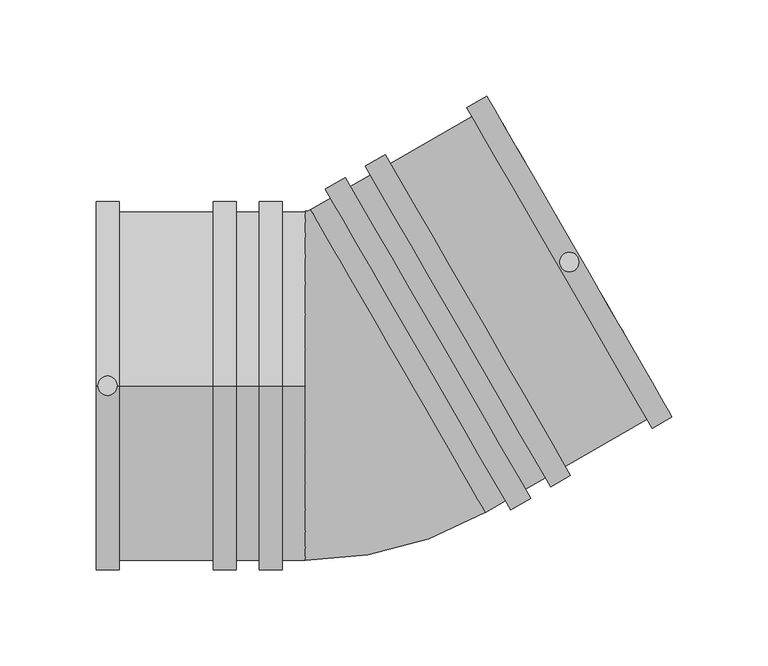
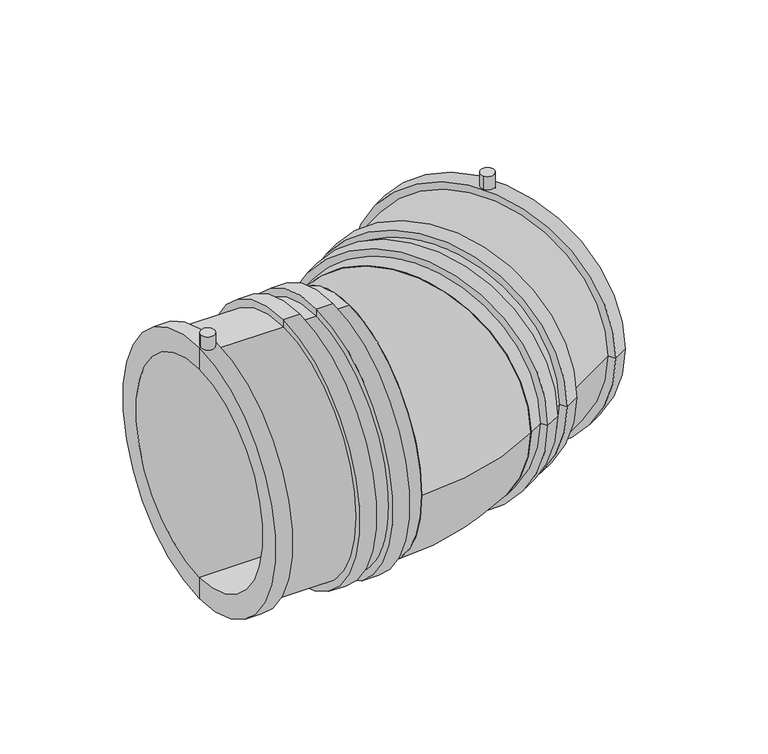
"""IFC4 building model written with IfcOpenShell, lengths in millimetres: pipe fitting geometry, Plumbing_Pipe-Fittings_Plasson_LightFit-Elbow-30_46330 : Plumbing_Pipe-Fittings_Plasson_LightFit-Elbow-30_46330."""

from ifc_helpers import new_model, si_unit, point, frame, frame_2d, origin, place, context, project, spatial, polyline, circle_curve, ellipse_curve, trimmed, segment, composite_curve, outline, extrude, source, transform, mapped, element, save
from ifc_brep_helpers import plane_surface, cylinder_surface, revolved_surface, advanced_brep


def pipe_fitting_4fac7fd4(model_context):
    return source(origin(), model_context, "Body", "SolidModel", [
        extrude(outline(composite_curve([segment(trimmed(circle_curve(frame_2d((-128.883892, 0.0)), 5.0), [point((-133.883892, 0.0))], [point((-123.883892, 0.0))], False, "CARTESIAN"), True, "CONTINUOUS"), segment(trimmed(circle_curve(frame_2d((-128.883892, 0.0)), 5.0), [point((-123.883892, 0.0))], [point((-133.883892, 0.0))], False, "CARTESIAN"), True, "CONTINUOUS")], self_intersect=False)), frame((0.0, 0.0, 88.25), z_axis=(0.0, 0.0, 1.0), x_axis=(1.0, 0.0, 0.0)), (0.0, 0.0, 1.0), 17.75),
        extrude(outline(composite_curve([segment(trimmed(circle_curve(frame_2d((111.6167246, 64.441946)), 5.0), [point((107.2865976, 61.941946))], [point((115.9468516, 66.941946))], False, "CARTESIAN"), True, "CONTINUOUS"), segment(trimmed(circle_curve(frame_2d((111.6167246, 64.441946)), 5.0), [point((115.9468516, 66.941946))], [point((107.2865976, 61.941946))], False, "CARTESIAN"), True, "CONTINUOUS")], self_intersect=False)), frame((0.0, 0.0, 88.25), z_axis=(0.0, 0.0, 1.0), x_axis=(1.0, 0.0, 0.0)), (0.0, 0.0, 1.0), 17.75),
        advanced_brep(
        [(156.812877, -1.8400863, 0.0), (76.812877, 136.7239783, 0.0), (-17.583892, 82.2239783, 0.0), (62.416108, -56.3400863, 0.0), (165.062877, -16.1295055, 0.0), (68.562877, 151.0133975, 0.0), (154.6705722, -22.1295055, 0.0), (58.1705722, 145.0133975, 0.0), (151.9705722, -17.4529683, 0.0), (60.8705722, 140.3368603, 0.0), (109.5086323, -41.9683807, 0.0), (18.4086323, 115.8214479, 0.0), (-23.133892, 91.8368603, 0.0), (67.966108, -65.9529683, 0.0), (112.2086323, -46.6449179, 0.0), (15.7086323, 120.497985, 0.0), (101.8163274, -52.6449179, 0.0), (5.3163274, 114.497985, 0.0), (99.1163274, -47.9683807, 0.0), (8.0163274, 109.8214479, 0.0), (88.7240226, -53.9683807, 0.0), (-2.3759774, 103.8214479, 0.0), (91.4240226, -58.6449179, 0.0), (-5.0759774, 108.497985, 0.0), (81.0317178, -64.6449179, 0.0), (-15.4682822, 102.497985, 0.0), (78.3317178, -59.9683807, 0.0), (-12.7682822, 97.8214479, 0.0)],
        [
            (0, 1, circle_curve(frame((116.812877, 67.441946, 0.0), z_axis=(0.866025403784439, 0.49999999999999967, 0.0), x_axis=(-0.49999999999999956, 0.8660254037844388, 0.0)), 80.0)),
            (1, 2),
            (2, 3, circle_curve(frame((22.416108, 12.941946, 0.0), z_axis=(-0.866025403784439, -0.49999999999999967, 0.0), x_axis=(-0.49999999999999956, 0.8660254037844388, 0.0)), 80.0)),
            (3, 0),
            (1, 0, circle_curve(frame((116.812877, 67.441946, 0.0), z_axis=(0.866025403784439, 0.49999999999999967, 0.0), x_axis=(-0.49999999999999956, 0.8660254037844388, 0.0)), 80.0)),
            (3, 2, circle_curve(frame((22.416108, 12.941946, 0.0), z_axis=(-0.866025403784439, -0.49999999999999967, 0.0), x_axis=(-0.49999999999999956, 0.8660254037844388, 0.0)), 80.0)),
            (4, 5, circle_curve(frame((116.812877, 67.441946, 0.0), z_axis=(0.866025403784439, 0.49999999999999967, 0.0), x_axis=(-0.49999999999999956, 0.8660254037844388, 0.0)), 96.5)),
            (5, 1),
            (0, 4),
            (5, 4, circle_curve(frame((116.812877, 67.441946, 0.0), z_axis=(0.866025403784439, 0.49999999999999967, 0.0), x_axis=(-0.49999999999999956, 0.8660254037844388, 0.0)), 96.5)),
            (6, 7, circle_curve(frame((106.4205722, 61.441946, 0.0), z_axis=(0.866025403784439, 0.49999999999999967, 0.0), x_axis=(-0.49999999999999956, 0.8660254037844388, 0.0)), 96.5)),
            (7, 5),
            (4, 6),
            (7, 6, circle_curve(frame((106.4205722, 61.441946, 0.0), z_axis=(0.866025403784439, 0.49999999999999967, 0.0), x_axis=(-0.49999999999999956, 0.8660254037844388, 0.0)), 96.5)),
            (8, 9, circle_curve(frame((106.4205722, 61.441946, 0.0), z_axis=(0.866025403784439, 0.49999999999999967, 0.0), x_axis=(-0.49999999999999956, 0.8660254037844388, 0.0)), 91.1)),
            (9, 7),
            (6, 8),
            (9, 8, circle_curve(frame((106.4205722, 61.441946, 0.0), z_axis=(0.866025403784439, 0.49999999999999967, 0.0), x_axis=(-0.49999999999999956, 0.8660254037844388, 0.0)), 91.1)),
            (10, 11, circle_curve(frame((63.9586323, 36.9265336, 0.0), z_axis=(0.866025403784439, 0.49999999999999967, 0.0), x_axis=(-0.49999999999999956, 0.8660254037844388, 0.0)), 91.1)),
            (11, 9),
            (8, 10),
            (11, 10, circle_curve(frame((63.9586323, 36.9265336, 0.0), z_axis=(0.866025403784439, 0.49999999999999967, 0.0), x_axis=(-0.49999999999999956, 0.8660254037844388, 0.0)), 91.1)),
            (2, 12),
            (12, 13, circle_curve(frame((22.416108, 12.941946, 0.0), z_axis=(-0.866025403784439, -0.49999999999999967, 0.0), x_axis=(-0.49999999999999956, 0.8660254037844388, 0.0)), 91.1)),
            (13, 3),
            (13, 12, circle_curve(frame((22.416108, 12.941946, 0.0), z_axis=(-0.866025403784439, -0.49999999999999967, 0.0), x_axis=(-0.49999999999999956, 0.8660254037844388, 0.0)), 91.1)),
            (14, 15, circle_curve(frame((63.9586323, 36.9265336, 0.0), z_axis=(0.866025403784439, 0.49999999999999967, 0.0), x_axis=(-0.49999999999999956, 0.8660254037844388, 0.0)), 96.5)),
            (15, 11),
            (10, 14),
            (15, 14, circle_curve(frame((63.9586323, 36.9265336, 0.0), z_axis=(0.866025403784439, 0.49999999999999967, 0.0), x_axis=(-0.49999999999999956, 0.8660254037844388, 0.0)), 96.5)),
            (16, 17, circle_curve(frame((53.5663274, 30.9265336, 0.0), z_axis=(0.866025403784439, 0.49999999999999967, 0.0), x_axis=(-0.49999999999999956, 0.8660254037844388, 0.0)), 96.5)),
            (17, 15),
            (14, 16),
            (17, 16, circle_curve(frame((53.5663274, 30.9265336, 0.0), z_axis=(0.866025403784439, 0.49999999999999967, 0.0), x_axis=(-0.49999999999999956, 0.8660254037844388, 0.0)), 96.5)),
            (18, 19, circle_curve(frame((53.5663274, 30.9265336, 0.0), z_axis=(0.866025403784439, 0.49999999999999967, 0.0), x_axis=(-0.49999999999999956, 0.8660254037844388, 0.0)), 91.1)),
            (19, 17),
            (16, 18),
            (19, 18, circle_curve(frame((53.5663274, 30.9265336, 0.0), z_axis=(0.866025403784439, 0.49999999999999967, 0.0), x_axis=(-0.49999999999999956, 0.8660254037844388, 0.0)), 91.1)),
            (20, 21, circle_curve(frame((43.1740226, 24.9265336, 0.0), z_axis=(0.866025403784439, 0.49999999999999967, 0.0), x_axis=(-0.49999999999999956, 0.8660254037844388, 0.0)), 91.1)),
            (21, 19),
            (18, 20),
            (21, 20, circle_curve(frame((43.1740226, 24.9265336, 0.0), z_axis=(0.866025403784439, 0.49999999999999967, 0.0), x_axis=(-0.49999999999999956, 0.8660254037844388, 0.0)), 91.1)),
            (22, 23, circle_curve(frame((43.1740226, 24.9265336, 0.0), z_axis=(0.866025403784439, 0.49999999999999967, 0.0), x_axis=(-0.49999999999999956, 0.8660254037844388, 0.0)), 96.5)),
            (23, 21),
            (20, 22),
            (23, 22, circle_curve(frame((43.1740226, 24.9265336, 0.0), z_axis=(0.866025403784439, 0.49999999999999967, 0.0), x_axis=(-0.49999999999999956, 0.8660254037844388, 0.0)), 96.5)),
            (24, 25, circle_curve(frame((32.7817178, 18.9265336, 0.0), z_axis=(0.866025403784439, 0.49999999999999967, 0.0), x_axis=(-0.49999999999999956, 0.8660254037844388, 0.0)), 96.5)),
            (25, 23),
            (22, 24),
            (25, 24, circle_curve(frame((32.7817178, 18.9265336, 0.0), z_axis=(0.866025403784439, 0.49999999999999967, 0.0), x_axis=(-0.49999999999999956, 0.8660254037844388, 0.0)), 96.5)),
            (26, 27, circle_curve(frame((32.7817178, 18.9265336, 0.0), z_axis=(0.866025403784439, 0.49999999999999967, 0.0), x_axis=(-0.49999999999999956, 0.8660254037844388, 0.0)), 91.1)),
            (27, 25),
            (24, 26),
            (27, 26, circle_curve(frame((32.7817178, 18.9265336, 0.0), z_axis=(0.866025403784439, 0.49999999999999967, 0.0), x_axis=(-0.49999999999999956, 0.8660254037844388, 0.0)), 91.1)),
            (12, 27),
            (26, 13),
        ],
        [
            revolved_surface(polyline([(-17.583891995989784, 82.2239782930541, 0.0), (76.81287700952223, 136.72397828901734, 0.0)]), (0.0, 0.0, 0.0), (-0.8660254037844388, -0.49999999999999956, 0.0)),
            plane_surface(frame((116.812877, 67.441946, 0.0), z_axis=(0.8660254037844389, 0.4999999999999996, 0.0), x_axis=(-0.4999999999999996, 0.8660254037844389, 0.0))),
            cylinder_surface(frame((0.0, 0.0, 0.0), z_axis=(-0.8660254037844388, -0.49999999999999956, 0.0), x_axis=(-0.49999999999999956, 0.8660254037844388, 0.0)), 96.5),
            plane_surface(frame((106.4205722, 61.441946, 0.0), z_axis=(-0.8660254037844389, -0.4999999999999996, 0.0), x_axis=(-0.4999999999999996, 0.8660254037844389, 0.0))),
            cylinder_surface(frame((0.0, 0.0, 0.0), z_axis=(-0.8660254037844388, -0.49999999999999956, 0.0), x_axis=(-0.49999999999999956, 0.8660254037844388, 0.0)), 91.1),
            plane_surface(frame((22.416108, 12.941946, 0.0), z_axis=(-0.8660254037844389, -0.4999999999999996, 0.0), x_axis=(-0.4999999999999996, 0.8660254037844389, 0.0))),
            plane_surface(frame((63.9586323, 36.9265336, 0.0), z_axis=(0.8660254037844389, 0.4999999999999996, 0.0), x_axis=(-0.4999999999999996, 0.8660254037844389, 0.0))),
            plane_surface(frame((53.5663274, 30.9265336, 0.0), z_axis=(-0.8660254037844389, -0.4999999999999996, 0.0), x_axis=(-0.4999999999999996, 0.8660254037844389, 0.0))),
            plane_surface(frame((43.1740226, 24.9265336, 0.0), z_axis=(0.8660254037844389, 0.4999999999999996, 0.0), x_axis=(-0.4999999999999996, 0.8660254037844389, 0.0))),
            plane_surface(frame((32.7817178, 18.9265336, 0.0), z_axis=(-0.8660254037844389, -0.4999999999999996, 0.0), x_axis=(-0.4999999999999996, 0.8660254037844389, 0.0))),
        ],
        [
            (0, [[1, 2, 3, 4]]),
            (0, [[5, -4, 6, -2]]),
            (1, [[7, 8, -1, 9]]),
            (1, [[10, -9, -5, -8]]),
            (2, [[11, 12, -7, 13]]),
            (2, [[14, -13, -10, -12]]),
            (3, [[15, 16, -11, 17]]),
            (3, [[18, -17, -14, -16]]),
            (4, [[19, 20, -15, 21]]),
            (4, [[22, -21, -18, -20]]),
            (5, [[-3, 23, 24, 25]]),
            (5, [[-6, -25, 26, -23]]),
            (6, [[27, 28, -19, 29]]),
            (6, [[30, -29, -22, -28]]),
            (2, [[31, 32, -27, 33]]),
            (2, [[34, -33, -30, -32]]),
            (7, [[35, 36, -31, 37]]),
            (7, [[38, -37, -34, -36]]),
            (4, [[39, 40, -35, 41]]),
            (4, [[42, -41, -38, -40]]),
            (8, [[43, 44, -39, 45]]),
            (8, [[46, -45, -42, -44]]),
            (2, [[47, 48, -43, 49]]),
            (2, [[50, -49, -46, -48]]),
            (9, [[51, 52, -47, 53]]),
            (9, [[54, -53, -50, -52]]),
            (4, [[-24, 55, -51, 56]]),
            (4, [[-26, -56, -54, -55]]),
        ],
    ),
        advanced_brep(
        [(-25.883892, -91.0, 0.0), (-25.883892, 91.0, 0.0), (67.916108, -65.8663657, 0.0), (-23.083892, 91.7502577, 0.0)],
        [
            (0, 1, circle_curve(frame((-25.883892, 0.0, 0.0), z_axis=(-1.0, 0.0, 0.0), x_axis=(0.0, 1.0, 0.0)), 91.0)),
            (1, 0, circle_curve(frame((-25.883892, 0.0, 0.0), z_axis=(-1.0, 0.0, 0.0), x_axis=(0.0, 1.0, 0.0)), 91.0)),
            (2, 3, circle_curve(frame((22.416108, 12.941946, 0.0), z_axis=(0.8660254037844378, 0.5000000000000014, 0.0), x_axis=(-0.5000000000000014, 0.8660254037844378, 0.0)), 91.0)),
            (3, 2, circle_curve(frame((22.416108, 12.941946, 0.0), z_axis=(0.8660254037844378, 0.5000000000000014, 0.0), x_axis=(-0.5000000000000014, 0.8660254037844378, 0.0)), 91.0)),
            (3, 1, circle_curve(frame((-25.883892, 96.6, 0.0), z_axis=(0.0, 0.0, -1.0), x_axis=(0.0, -1.0, 0.0)), 5.6)),
            (0, 2, circle_curve(frame((-25.883892, 96.6, 0.0), z_axis=(0.0, 0.0, 1.0), x_axis=(0.0, -1.0, 0.0)), 187.6)),
        ],
        [
            plane_surface(frame((-25.883892, 0.0, 0.0), z_axis=(-1.0, 0.0, 0.0), x_axis=(0.0, 0.0, 1.0))),
            plane_surface(frame((22.416108, 12.941946, 0.0), z_axis=(0.8660254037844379, 0.5000000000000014, 0.0), x_axis=(0.0, 0.0, 1.0))),
            revolved_surface(trimmed(ellipse_curve(frame((-25.883892, 0.0, 0.0), z_axis=(-1.0, 0.0, 0.0), x_axis=(0.0, 1.0, 0.0)), 91.0, 91.0), [point((-25.883892, -91.0, 0.0))], [point((-25.883892, 91.0, 0.0))], True, "CARTESIAN"), (-25.883892, 96.6, 0.0), (0.0, 0.0, 1.0)),
            revolved_surface(trimmed(ellipse_curve(frame((-25.883892, 0.0, 0.0), z_axis=(-1.0, 0.0, 0.0), x_axis=(0.0, 1.0, 0.0)), 91.0, 91.0), [point((-25.883892, 91.0, 0.0))], [point((-25.883892, -91.0, 0.0))], True, "CARTESIAN"), (-25.883892, 96.6, 0.0), (0.0, 0.0, 1.0)),
        ],
        [
            (0, [[1, 2]]),
            (1, [[3, 4]]),
            (2, [[5, -1, 6, -4]]),
            (3, [[-6, -2, -5, -3]]),
        ],
    ),
        advanced_brep(
        [(-25.883892, 0.0, -80.0), (-25.883892, 0.0, 80.0), (-134.883892, 0.0, 80.0), (-134.883892, 0.0, -80.0), (-122.883892, 0.0, -91.0), (-122.883892, 0.0, 91.0), (-73.883892, 0.0, 91.0), (-73.883892, 0.0, -91.0), (-122.883892, 0.0, -96.5), (-122.883892, 0.0, 96.5), (-134.883892, 0.0, -96.5), (-134.883892, 0.0, 96.5), (-25.883892, 0.0, -91.0), (-25.883892, 0.0, 91.0), (-49.883892, 0.0, -96.5), (-49.883892, 0.0, 96.5), (-37.900043, 0.0, 96.5), (-37.900043, 0.0, -96.5), (-49.883892, 0.0, -91.0), (-49.883892, 0.0, 91.0), (-61.883892, 0.0, -91.0), (-61.883892, 0.0, 91.0), (-61.883892, 0.0, -96.5), (-61.883892, 0.0, 96.5), (-73.883892, 0.0, -96.5), (-73.883892, 0.0, 96.5), (-37.900043, 0.0, -91.0), (-37.900043, 0.0, 91.0)],
        [
            (0, 1, circle_curve(frame((-25.883892, 0.0, 0.0), z_axis=(1.0, 0.0, 0.0), x_axis=(0.0, 0.0, 1.0)), 80.0)),
            (1, 2),
            (2, 3, circle_curve(frame((-134.883892, 0.0, 0.0), z_axis=(-1.0, 0.0, 0.0), x_axis=(0.0, 0.0, 1.0)), 80.0)),
            (3, 0),
            (1, 0, circle_curve(frame((-25.883892, 0.0, 0.0), z_axis=(1.0, 0.0, 0.0), x_axis=(0.0, 0.0, 1.0)), 80.0)),
            (3, 2, circle_curve(frame((-134.883892, 0.0, 0.0), z_axis=(-1.0, 0.0, 0.0), x_axis=(0.0, 0.0, 1.0)), 80.0)),
            (4, 5, circle_curve(frame((-122.883892, 0.0, 0.0), z_axis=(1.0, 0.0, 0.0), x_axis=(0.0, 0.0, 1.0)), 91.0)),
            (5, 6),
            (6, 7, circle_curve(frame((-73.883892, 0.0, 0.0), z_axis=(-1.0, 0.0, 0.0), x_axis=(0.0, 0.0, 1.0)), 91.0)),
            (7, 4),
            (5, 4, circle_curve(frame((-122.883892, 0.0, 0.0), z_axis=(1.0, 0.0, 0.0), x_axis=(0.0, 0.0, 1.0)), 91.0)),
            (7, 6, circle_curve(frame((-73.883892, 0.0, 0.0), z_axis=(-1.0, 0.0, 0.0), x_axis=(0.0, 0.0, 1.0)), 91.0)),
            (8, 9, circle_curve(frame((-122.883892, 0.0, 0.0), z_axis=(1.0, 0.0, 0.0), x_axis=(0.0, 0.0, 1.0)), 96.5)),
            (9, 5),
            (4, 8),
            (9, 8, circle_curve(frame((-122.883892, 0.0, 0.0), z_axis=(1.0, 0.0, 0.0), x_axis=(0.0, 0.0, 1.0)), 96.5)),
            (10, 11, circle_curve(frame((-134.883892, 0.0, 0.0), z_axis=(1.0, 0.0, 0.0), x_axis=(0.0, 0.0, 1.0)), 96.5)),
            (11, 9),
            (8, 10),
            (11, 10, circle_curve(frame((-134.883892, 0.0, 0.0), z_axis=(1.0, 0.0, 0.0), x_axis=(0.0, 0.0, 1.0)), 96.5)),
            (2, 11),
            (10, 3),
            (12, 13, circle_curve(frame((-25.883892, 0.0, 0.0), z_axis=(1.0, 0.0, 0.0), x_axis=(0.0, 0.0, 1.0)), 91.0)),
            (13, 1),
            (0, 12),
            (13, 12, circle_curve(frame((-25.883892, 0.0, 0.0), z_axis=(1.0, 0.0, 0.0), x_axis=(0.0, 0.0, 1.0)), 91.0)),
            (14, 15, circle_curve(frame((-49.883892, 0.0, 0.0), z_axis=(1.0, 0.0, 0.0), x_axis=(0.0, 0.0, 1.0)), 96.5)),
            (15, 16),
            (16, 17, circle_curve(frame((-37.900043, 0.0, 0.0), z_axis=(-1.0, 0.0, 0.0), x_axis=(0.0, 0.0, 1.0)), 96.5)),
            (17, 14),
            (15, 14, circle_curve(frame((-49.883892, 0.0, 0.0), z_axis=(1.0, 0.0, 0.0), x_axis=(0.0, 0.0, 1.0)), 96.5)),
            (17, 16, circle_curve(frame((-37.900043, 0.0, 0.0), z_axis=(-1.0, 0.0, 0.0), x_axis=(0.0, 0.0, 1.0)), 96.5)),
            (18, 19, circle_curve(frame((-49.883892, 0.0, 0.0), z_axis=(1.0, 0.0, 0.0), x_axis=(0.0, 0.0, 1.0)), 91.0)),
            (19, 15),
            (14, 18),
            (19, 18, circle_curve(frame((-49.883892, 0.0, 0.0), z_axis=(1.0, 0.0, 0.0), x_axis=(0.0, 0.0, 1.0)), 91.0)),
            (20, 21, circle_curve(frame((-61.883892, 0.0, 0.0), z_axis=(1.0, 0.0, 0.0), x_axis=(0.0, 0.0, 1.0)), 91.0)),
            (21, 19),
            (18, 20),
            (21, 20, circle_curve(frame((-61.883892, 0.0, 0.0), z_axis=(1.0, 0.0, 0.0), x_axis=(0.0, 0.0, 1.0)), 91.0)),
            (22, 23, circle_curve(frame((-61.883892, 0.0, 0.0), z_axis=(1.0, 0.0, 0.0), x_axis=(0.0, 0.0, 1.0)), 96.5)),
            (23, 21),
            (20, 22),
            (23, 22, circle_curve(frame((-61.883892, 0.0, 0.0), z_axis=(1.0, 0.0, 0.0), x_axis=(0.0, 0.0, 1.0)), 96.5)),
            (24, 25, circle_curve(frame((-73.883892, 0.0, 0.0), z_axis=(1.0, 0.0, 0.0), x_axis=(0.0, 0.0, 1.0)), 96.5)),
            (25, 23),
            (22, 24),
            (25, 24, circle_curve(frame((-73.883892, 0.0, 0.0), z_axis=(1.0, 0.0, 0.0), x_axis=(0.0, 0.0, 1.0)), 96.5)),
            (6, 25),
            (24, 7),
            (26, 27, circle_curve(frame((-37.900043, 0.0, 0.0), z_axis=(1.0, 0.0, 0.0), x_axis=(0.0, 0.0, 1.0)), 91.0)),
            (27, 13),
            (12, 26),
            (27, 26, circle_curve(frame((-37.900043, 0.0, 0.0), z_axis=(1.0, 0.0, 0.0), x_axis=(0.0, 0.0, 1.0)), 91.0)),
            (16, 27),
            (26, 17),
        ],
        [
            revolved_surface(polyline([(-134.883892, 0.0, 80.0), (-25.883892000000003, 0.0, 80.0)]), (-134.883892, 0.0, 0.0), (-1.0, 0.0, 0.0)),
            cylinder_surface(frame((-134.883892, 0.0, 0.0), z_axis=(-1.0, 0.0, 0.0), x_axis=(0.0, 0.0, 1.0)), 91.0),
            plane_surface(frame((-122.883892, 0.0, 0.0), z_axis=(1.0, 0.0, 0.0), x_axis=(0.0, 0.0, 1.0))),
            cylinder_surface(frame((-134.883892, 0.0, 0.0), z_axis=(-1.0, 0.0, 0.0), x_axis=(0.0, 0.0, 1.0)), 96.5),
            plane_surface(frame((-134.883892, 0.0, 0.0), z_axis=(-1.0, 0.0, 0.0), x_axis=(0.0, 0.0, 1.0))),
            plane_surface(frame((-25.883892, 0.0, 0.0), z_axis=(1.0, 0.0, 0.0), x_axis=(0.0, 0.0, 1.0))),
            plane_surface(frame((-49.883892, 0.0, 0.0), z_axis=(-1.0, 0.0, 0.0), x_axis=(0.0, 0.0, 1.0))),
            plane_surface(frame((-61.883892, 0.0, 0.0), z_axis=(1.0, 0.0, 0.0), x_axis=(0.0, 0.0, 1.0))),
            plane_surface(frame((-73.883892, 0.0, 0.0), z_axis=(-1.0, 0.0, 0.0), x_axis=(0.0, 0.0, 1.0))),
            plane_surface(frame((-37.900043, 0.0, 0.0), z_axis=(1.0, 0.0, 0.0), x_axis=(0.0, 0.0, 1.0))),
        ],
        [
            (0, [[1, 2, 3, 4]]),
            (0, [[5, -4, 6, -2]]),
            (1, [[7, 8, 9, 10]]),
            (1, [[11, -10, 12, -8]]),
            (2, [[13, 14, -7, 15]]),
            (2, [[16, -15, -11, -14]]),
            (3, [[17, 18, -13, 19]]),
            (3, [[20, -19, -16, -18]]),
            (4, [[-3, 21, -17, 22]]),
            (4, [[-6, -22, -20, -21]]),
            (5, [[23, 24, -1, 25]]),
            (5, [[26, -25, -5, -24]]),
            (3, [[27, 28, 29, 30]]),
            (3, [[31, -30, 32, -28]]),
            (6, [[33, 34, -27, 35]]),
            (6, [[36, -35, -31, -34]]),
            (1, [[37, 38, -33, 39]]),
            (1, [[40, -39, -36, -38]]),
            (7, [[41, 42, -37, 43]]),
            (7, [[44, -43, -40, -42]]),
            (3, [[45, 46, -41, 47]]),
            (3, [[48, -47, -44, -46]]),
            (8, [[-9, 49, -45, 50]]),
            (8, [[-12, -50, -48, -49]]),
            (1, [[51, 52, -23, 53]]),
            (1, [[54, -53, -26, -52]]),
            (9, [[-29, 55, -51, 56]]),
            (9, [[-32, -56, -54, -55]]),
        ],
    ),
    ])


if __name__ == "__main__":
    model = new_model("IFC4")
    model_context = context("Model", 3, world=origin())
    ifc_project = project(units=[si_unit("LENGTHUNIT", "METRE", prefix="MILLI")], contexts=[model_context])
    site = spatial("IfcSite", under=ifc_project)
    building = spatial("IfcBuilding", under=site)
    placement = place(None, origin())
    pipe_fitting_shape = pipe_fitting_4fac7fd4(model_context)
    element("IfcPipeFitting", 1, ObjectType="Plumbing_Pipe-Fittings_Plasson_LightFit-Elbow-30_46330 : Plumbing_Pipe-Fittings_Plasson_LightFit-Elbow-30_46330", at=placement, inside=building, context=model_context, shape_type="MappedRepresentation", body=[
        mapped(pipe_fitting_shape, transform((0.0, 0.0, 0.0), x_axis=(1.0, 0.0, 0.0), y_axis=(0.0, 1.0, 0.0), z_axis=(0.0, 0.0, 1.0))),
    ])
    save(model, "model.ifc")
